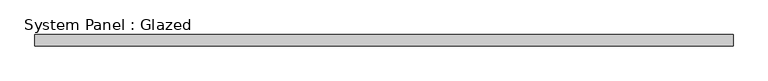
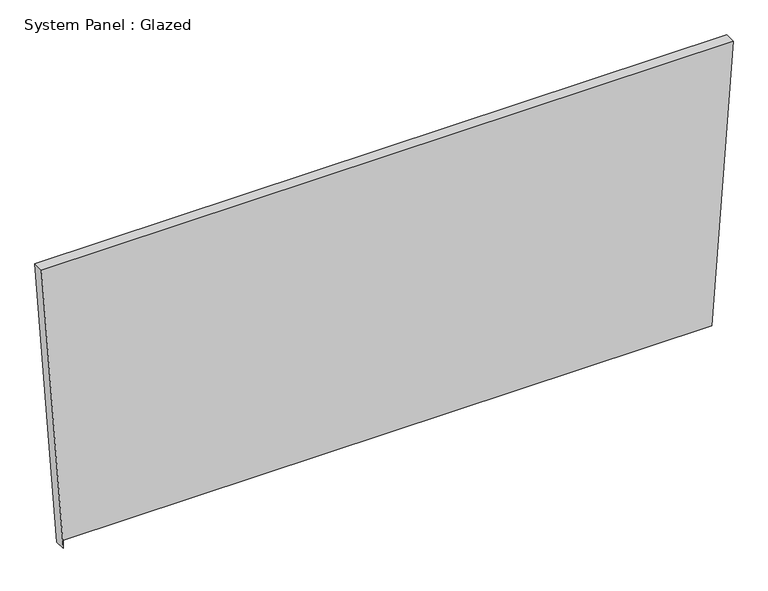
"""IFC4 building model written with IfcOpenShell, lengths in millimetres: plate geometry, System Panel : Glazed."""

from ifc_helpers import new_model, si_unit, frame, origin, place, context, project, spatial, polyline, outline, extrude, source, transform, mapped, element, save


def system_panel_glazed_3ab7e21a(model_context):
    return source(origin(), model_context, "Body", "SweptSolid", [
        extrude(outline(polyline([(0.0, -732.9595539), (19.05, -732.9595621), (19.0506341, 734.3431464), (682.4705774, 782.5271322), (682.469901, -782.5271322), (0.0, -732.9595539)])), frame((0.0, 19.05, 0.0), z_axis=(0.0, 1.0, 0.0), x_axis=(0.0, 0.0, 1.0)), (0.0, 0.0, 1.0), 25.4),
    ])


if __name__ == "__main__":
    model = new_model("IFC4")
    model_context = context("Model", 3, world=origin())
    ifc_project = project(units=[si_unit("LENGTHUNIT", "METRE", prefix="MILLI")], contexts=[model_context])
    site = spatial("IfcSite", under=ifc_project)
    building = spatial("IfcBuilding", under=site)
    placement = place(None, origin())
    system_panel_glazed_shape = system_panel_glazed_3ab7e21a(model_context)
    element("IfcPlate", 1, ObjectType="System Panel : Glazed", at=placement, inside=building, context=model_context, shape_type="MappedRepresentation", body=[
        mapped(system_panel_glazed_shape, transform((0.0, 0.0, 0.0), x_axis=(1.0, 0.0, 0.0), y_axis=(0.0, 1.0, 0.0), z_axis=(0.0, 0.0, 1.0))),
    ])
    save(model, "model.ifc")
